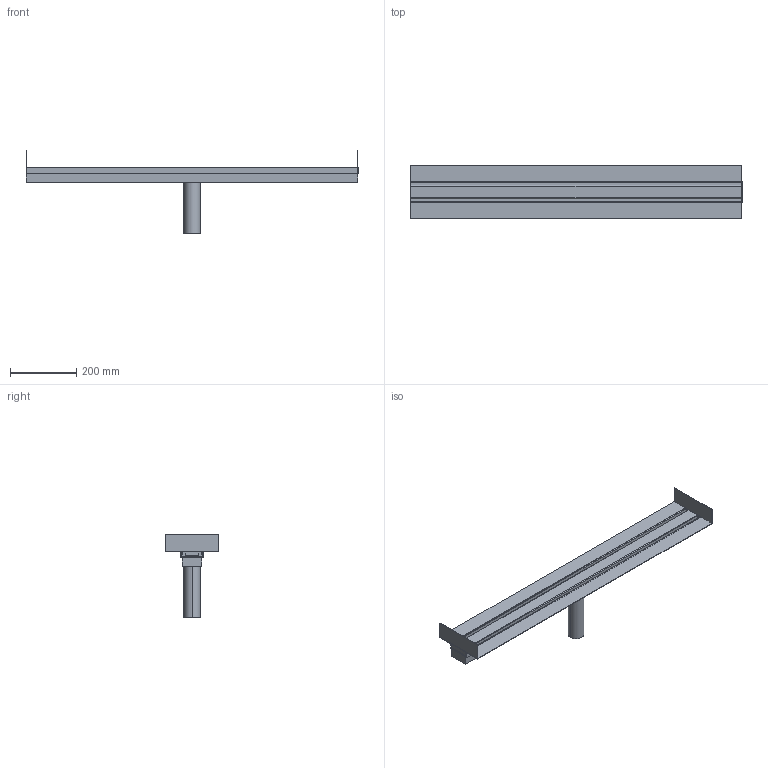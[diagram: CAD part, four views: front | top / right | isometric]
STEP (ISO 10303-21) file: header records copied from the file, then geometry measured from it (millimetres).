
FILE_DESCRIPTION(/* description */ (''),/* implementation_level */ '2;1');
FILE_NAME(/* name */ 'E:\Workspace\resitec\Packs\Kategorie\Entwässerungsrinne\STP\RS775KVDuschrinne verdeckt-2xZargeL+R-2xKRV+H.s.ipt.stp',/* time_stamp */ '2020-10-04T20:59:20+02:00',/* author */ ('ndmes'),/* organization */ (''),/* preprocessor_version */ 'ST-DEVELOPER v18.1',/* originating_system */ 'Autodesk Inventor 2021',/* authorisation */ '');
FILE_SCHEMA (('AUTOMOTIVE_DESIGN { 1 0 10303 214 3 1 1 }'));
Length unit declared in the file: millimetre
Products named in the file (1): RS775KVDuschrinne verdeckt-2xZargeL+R-2xKRV+H.s
Bounding box: 1000 x 160 x 250 mm (x, y, z)
Volume: 3062518.7 mm3; surface area: 633538.3 mm2
Topology: 10 solids, 10 shells, 72 faces, 156 edges, 104 vertices
Faces by surface type: plane 64, cylinder 8
Entity records: 1968 total; most frequent: CARTESIAN_POINT 333, DIRECTION 318, ORIENTED_EDGE 312, EDGE_CURVE 156, LINE 140, VECTOR 140, VERTEX_POINT 104, AXIS2_PLACEMENT_3D 89
